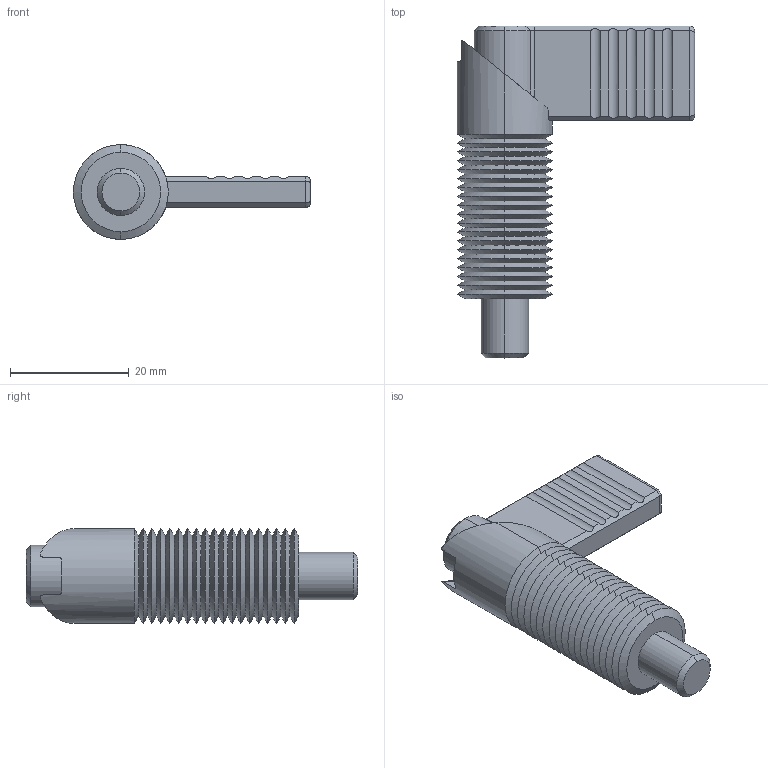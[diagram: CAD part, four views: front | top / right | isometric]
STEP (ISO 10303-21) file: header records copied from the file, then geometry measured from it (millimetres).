
FILE_DESCRIPTION (( 'STEP AP203' ), '1' );
FILE_NAME ('32501.W0327.step', '2016-02-10T17:20:46', ( 'User' ), ( '' ), 'SwSTEP 2.0', 'SolidWorks 2009', '' );
FILE_SCHEMA (( 'CONFIG_CONTROL_DESIGN' ));
Length unit declared in the file: millimetre
Products named in the file (3): Part1_32501.W0327; Part2_32501.W0327; 32501.W0327
Assembly tree (2 placements, depth 2):
  32501.W0327
    Part1_32501.W0327
    Part2_32501.W0327
Bounding box: 40 x 56 x 16 mm (x, y, z)
Volume: 8172.1 mm3; surface area: 7348.6 mm2
Topology: 2 solids, 2 shells, 155 faces, 344 edges, 196 vertices
Faces by surface type: cone 88, cylinder 41, plane 26
Entity records: 4569 total; most frequent: CARTESIAN_POINT 888, DIRECTION 746, ORIENTED_EDGE 688, EDGE_CURVE 344, AXIS2_PLACEMENT_3D 284, VERTEX_POINT 196, VECTOR 178, LINE 178
